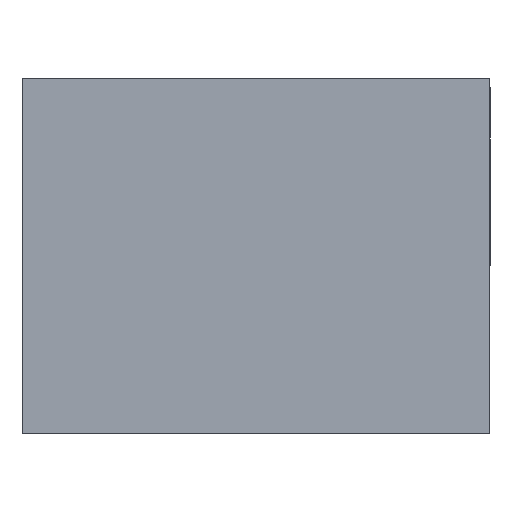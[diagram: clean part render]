
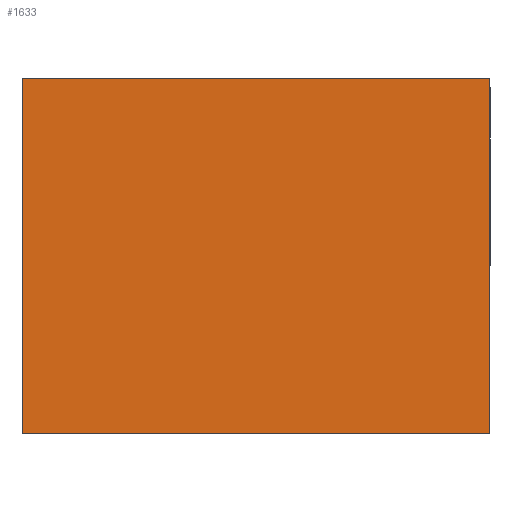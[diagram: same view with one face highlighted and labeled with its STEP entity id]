
A CAD part, front view. The second image highlights one B-rep face of the part: STEP entity #1633.
In plain terms, the highlighted planar face has unit normal (0, -1, 0).
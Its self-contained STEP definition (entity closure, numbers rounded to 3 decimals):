
#1 = ORIENTED_EDGE ( 'NONE', *, *, #168, .F. ) ;
#12 = CARTESIAN_POINT ( 'NONE',  ( 62.5, 0., -47.5 ) ) ;
#25 = AXIS2_PLACEMENT_3D ( 'NONE', #1385, #1498, #1517 ) ;
#127 = EDGE_CURVE ( 'NONE', #313, #1536, #2070, .T. ) ;
#145 = LINE ( 'NONE', #707, #1955 ) ;
#166 = DIRECTION ( 'NONE',  ( 1., 0., 0. ) ) ;
#168 = EDGE_CURVE ( 'NONE', #1005, #313, #145, .T. ) ;
#232 = VECTOR ( 'NONE', #1353, 1000. ) ;
#283 = ORIENTED_EDGE ( 'NONE', *, *, #1002, .F. ) ;
#313 = VERTEX_POINT ( 'NONE', #928 ) ;
#531 = LINE ( 'NONE', #979, #884 ) ;
#694 = DIRECTION ( 'NONE',  ( 0., 0., -1. ) ) ;
#707 = CARTESIAN_POINT ( 'NONE',  ( -62.5, 0., 47.5 ) ) ;
#719 = LINE ( 'NONE', #1245, #232 ) ;
#819 = ORIENTED_EDGE ( 'NONE', *, *, #1724, .F. ) ;
#884 = VECTOR ( 'NONE', #1189, 1000. ) ;
#928 = CARTESIAN_POINT ( 'NONE',  ( 62.5, 0., 47.5 ) ) ;
#979 = CARTESIAN_POINT ( 'NONE',  ( -62.5, 0., -47.5 ) ) ;
#989 = CARTESIAN_POINT ( 'NONE',  ( -62.5, 0., -47.5 ) ) ;
#1002 = EDGE_CURVE ( 'NONE', #1376, #1005, #719, .T. ) ;
#1005 = VERTEX_POINT ( 'NONE', #1326 ) ;
#1189 = DIRECTION ( 'NONE',  ( -1., 0., 0. ) ) ;
#1245 = CARTESIAN_POINT ( 'NONE',  ( -62.5, 0., -47.5 ) ) ;
#1326 = CARTESIAN_POINT ( 'NONE',  ( -62.5, 0., 47.5 ) ) ;
#1353 = DIRECTION ( 'NONE',  ( 0., 0., 1. ) ) ;
#1376 = VERTEX_POINT ( 'NONE', #989 ) ;
#1385 = CARTESIAN_POINT ( 'NONE',  ( 0., 0., 0. ) ) ;
#1498 = DIRECTION ( 'NONE',  ( 0., 1., 0. ) ) ;
#1517 = DIRECTION ( 'NONE',  ( 0., 0., 1. ) ) ;
#1536 = VERTEX_POINT ( 'NONE', #2144 ) ;
#1554 = PLANE ( 'NONE',  #25 ) ;
#1633 = ADVANCED_FACE ( 'NONE', ( #1651 ), #1554, .F. ) ;
#1651 = FACE_OUTER_BOUND ( 'NONE', #2020, .T. ) ;
#1724 = EDGE_CURVE ( 'NONE', #1536, #1376, #531, .T. ) ;
#1930 = ORIENTED_EDGE ( 'NONE', *, *, #127, .F. ) ;
#1955 = VECTOR ( 'NONE', #166, 1000. ) ;
#2008 = VECTOR ( 'NONE', #694, 1000. ) ;
#2020 = EDGE_LOOP ( 'NONE', ( #1930, #1, #283, #819 ) ) ;
#2070 = LINE ( 'NONE', #12, #2008 ) ;
#2144 = CARTESIAN_POINT ( 'NONE',  ( 62.5, 0., -47.5 ) ) ;
